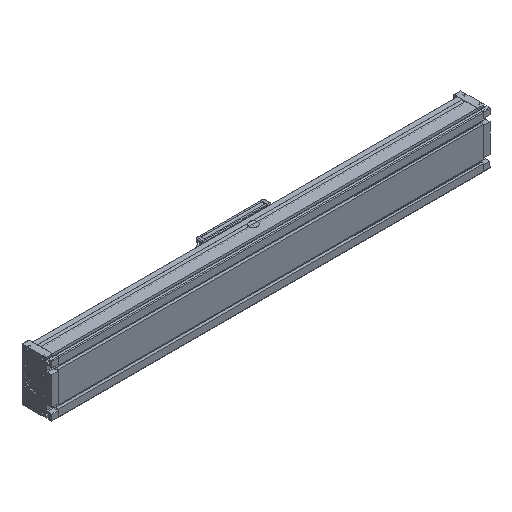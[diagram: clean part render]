
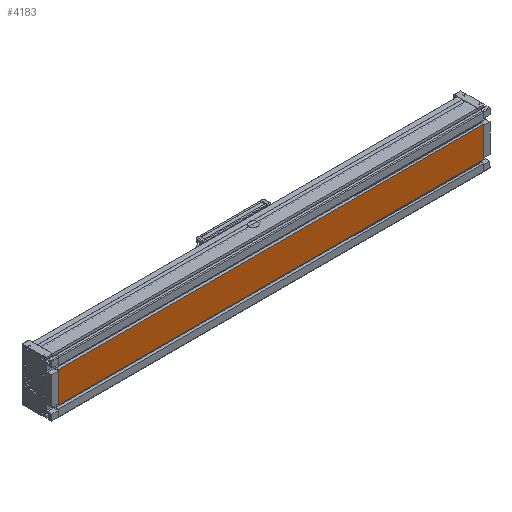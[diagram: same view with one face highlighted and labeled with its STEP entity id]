
A CAD part, isometric view. The second image highlights one B-rep face of the part: STEP entity #4183.
In plain terms, the highlighted planar face has unit normal (0, -1, 0).
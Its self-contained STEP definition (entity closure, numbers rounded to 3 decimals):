
#1743 = CARTESIAN_POINT ( 'NONE',  ( 0., -30., -34.95 ) ) ;
#1804 = LINE ( 'NONE', #12789, #6138 ) ;
#2007 = DIRECTION ( 'NONE',  ( -1., 0., 0. ) ) ;
#2128 = VECTOR ( 'NONE', #2007, 1000. ) ;
#2512 = DIRECTION ( 'NONE',  ( 0., 0., -1. ) ) ;
#2587 = LINE ( 'NONE', #13422, #2128 ) ;
#4183 = ADVANCED_FACE ( 'NONE', ( #4364 ), #5665, .F. ) ;
#4265 = CARTESIAN_POINT ( 'NONE',  ( 970., -30., 34.95 ) ) ;
#4364 = FACE_OUTER_BOUND ( 'NONE', #4452, .T. ) ;
#4452 = EDGE_LOOP ( 'NONE', ( #16075, #11007, #6899, #10521 ) ) ;
#5065 = EDGE_CURVE ( 'NONE', #16395, #15485, #6223, .T. ) ;
#5665 = PLANE ( 'NONE',  #12625 ) ;
#6138 = VECTOR ( 'NONE', #2512, 1000. ) ;
#6223 = LINE ( 'NONE', #7946, #17486 ) ;
#6899 = ORIENTED_EDGE ( 'NONE', *, *, #5065, .F. ) ;
#7175 = VECTOR ( 'NONE', #15658, 1000. ) ;
#7218 = DIRECTION ( 'NONE',  ( 0., 1., 0. ) ) ;
#7946 = CARTESIAN_POINT ( 'NONE',  ( 970., -30., 34.95 ) ) ;
#8375 = CARTESIAN_POINT ( 'NONE',  ( 970., -30., -34.95 ) ) ;
#8763 = VERTEX_POINT ( 'NONE', #18532 ) ;
#9417 = DIRECTION ( 'NONE',  ( 0., 0., -1. ) ) ;
#10521 = ORIENTED_EDGE ( 'NONE', *, *, #17577, .T. ) ;
#11007 = ORIENTED_EDGE ( 'NONE', *, *, #17729, .F. ) ;
#11535 = LINE ( 'NONE', #8375, #7175 ) ;
#12625 = AXIS2_PLACEMENT_3D ( 'NONE', #4265, #7218, #17475 ) ;
#12761 = CARTESIAN_POINT ( 'NONE',  ( 970., -30., -34.95 ) ) ;
#12789 = CARTESIAN_POINT ( 'NONE',  ( 0., -30., 34.95 ) ) ;
#13422 = CARTESIAN_POINT ( 'NONE',  ( 970., -30., 34.95 ) ) ;
#15113 = VERTEX_POINT ( 'NONE', #1743 ) ;
#15485 = VERTEX_POINT ( 'NONE', #12761 ) ;
#15658 = DIRECTION ( 'NONE',  ( -1., 0., 0. ) ) ;
#16075 = ORIENTED_EDGE ( 'NONE', *, *, #18343, .T. ) ;
#16395 = VERTEX_POINT ( 'NONE', #18016 ) ;
#17475 = DIRECTION ( 'NONE',  ( 0., 0., 1. ) ) ;
#17486 = VECTOR ( 'NONE', #9417, 1000. ) ;
#17577 = EDGE_CURVE ( 'NONE', #16395, #8763, #2587, .T. ) ;
#17729 = EDGE_CURVE ( 'NONE', #15485, #15113, #11535, .T. ) ;
#18016 = CARTESIAN_POINT ( 'NONE',  ( 970., -30., 34.95 ) ) ;
#18343 = EDGE_CURVE ( 'NONE', #8763, #15113, #1804, .T. ) ;
#18532 = CARTESIAN_POINT ( 'NONE',  ( 0., -30., 34.95 ) ) ;
